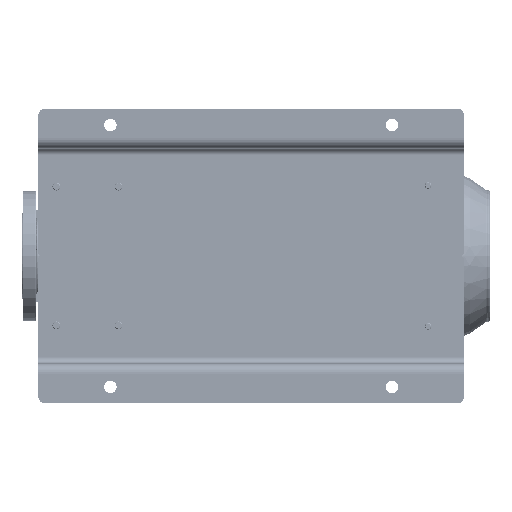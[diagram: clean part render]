
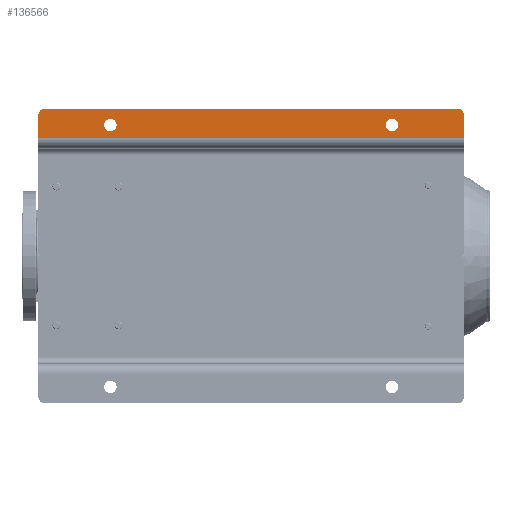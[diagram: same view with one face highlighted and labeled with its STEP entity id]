
A CAD part, front view. The second image highlights one B-rep face of the part: STEP entity #136566.
In plain terms, the highlighted planar face has unit normal (0, -1, 0).
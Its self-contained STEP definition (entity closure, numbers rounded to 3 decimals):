
#491 = AXIS2_PLACEMENT_3D ( 'NONE', #170918, #153267, #101358 ) ;
#7974 = ORIENTED_EDGE ( 'NONE', *, *, #176044, .T. ) ;
#10102 = VERTEX_POINT ( 'NONE', #121909 ) ;
#14840 = DIRECTION ( 'NONE',  ( 0., 0., -1. ) ) ;
#15424 = CARTESIAN_POINT ( 'NONE',  ( 425., 0., -110. ) ) ;
#16075 = CARTESIAN_POINT ( 'NONE',  ( 389., 0., 0. ) ) ;
#17735 = AXIS2_PLACEMENT_3D ( 'NONE', #207880, #122876, #82728 ) ;
#24602 = ORIENTED_EDGE ( 'NONE', *, *, #102186, .T. ) ;
#32465 = CIRCLE ( 'NONE', #220974, 9.5 ) ;
#34374 = ORIENTED_EDGE ( 'NONE', *, *, #54864, .T. ) ;
#36113 = VERTEX_POINT ( 'NONE', #97281 ) ;
#36116 = LINE ( 'NONE', #16075, #84320 ) ;
#48354 = CIRCLE ( 'NONE', #187988, 9.5 ) ;
#48909 = LINE ( 'NONE', #87920, #128263 ) ;
#50344 = PLANE ( 'NONE',  #126813 ) ;
#54864 = EDGE_CURVE ( 'NONE', #65617, #105984, #202630, .T. ) ;
#59059 = CARTESIAN_POINT ( 'NONE',  ( 415.5, 0., -110. ) ) ;
#65503 = DIRECTION ( 'NONE',  ( 0., 1., 0. ) ) ;
#65617 = VERTEX_POINT ( 'NONE', #123612 ) ;
#65779 = FACE_BOUND ( 'NONE', #78198, .T. ) ;
#67366 = LINE ( 'NONE', #126409, #167493 ) ;
#70147 = DIRECTION ( 'NONE',  ( 0., 0., 1. ) ) ;
#71041 = DIRECTION ( 'NONE',  ( 0., 0., -1. ) ) ;
#72207 = EDGE_CURVE ( 'NONE', #119170, #106532, #67366, .T. ) ;
#77016 = CARTESIAN_POINT ( 'NONE',  ( 405., 0., 0. ) ) ;
#78125 = ORIENTED_EDGE ( 'NONE', *, *, #215055, .T. ) ;
#78198 = EDGE_LOOP ( 'NONE', ( #34374, #7974 ) ) ;
#80007 = AXIS2_PLACEMENT_3D ( 'NONE', #110271, #182170, #217600 ) ;
#82728 = DIRECTION ( 'NONE',  ( 0., 0., -1. ) ) ;
#82949 = EDGE_CURVE ( 'NONE', #36113, #98380, #48909, .T. ) ;
#84320 = VECTOR ( 'NONE', #126042, 1000. ) ;
#84690 = FACE_OUTER_BOUND ( 'NONE', #216399, .T. ) ;
#85073 = DIRECTION ( 'NONE',  ( 0., 1., 0. ) ) ;
#86385 = CARTESIAN_POINT ( 'NONE',  ( 389., 0., -650. ) ) ;
#87920 = CARTESIAN_POINT ( 'NONE',  ( 450., 0., -650. ) ) ;
#95805 = DIRECTION ( 'NONE',  ( 0., 1., 0. ) ) ;
#96827 = ORIENTED_EDGE ( 'NONE', *, *, #82949, .T. ) ;
#97281 = CARTESIAN_POINT ( 'NONE',  ( 450., 0., -640. ) ) ;
#98380 = VERTEX_POINT ( 'NONE', #182307 ) ;
#101358 = DIRECTION ( 'NONE',  ( 0., 0., -1. ) ) ;
#102186 = EDGE_CURVE ( 'NONE', #10102, #36113, #173972, .T. ) ;
#105984 = VERTEX_POINT ( 'NONE', #200253 ) ;
#106532 = VERTEX_POINT ( 'NONE', #148860 ) ;
#108130 = CIRCLE ( 'NONE', #111878, 9.5 ) ;
#108317 = VERTEX_POINT ( 'NONE', #184202 ) ;
#110271 = CARTESIAN_POINT ( 'NONE',  ( 440., 0., -10. ) ) ;
#111878 = AXIS2_PLACEMENT_3D ( 'NONE', #15424, #65503, #71041 ) ;
#118863 = EDGE_LOOP ( 'NONE', ( #78125, #175390 ) ) ;
#119170 = VERTEX_POINT ( 'NONE', #77016 ) ;
#119441 = CARTESIAN_POINT ( 'NONE',  ( 425., 0., -540. ) ) ;
#121778 = ORIENTED_EDGE ( 'NONE', *, *, #143729, .T. ) ;
#121909 = CARTESIAN_POINT ( 'NONE',  ( 440., 0., -650. ) ) ;
#122876 = DIRECTION ( 'NONE',  ( 0., 1., 0. ) ) ;
#123612 = CARTESIAN_POINT ( 'NONE',  ( 415.5, 0., -540. ) ) ;
#123839 = ORIENTED_EDGE ( 'NONE', *, *, #209578, .T. ) ;
#126042 = DIRECTION ( 'NONE',  ( 1., 0., 0. ) ) ;
#126409 = CARTESIAN_POINT ( 'NONE',  ( 405., 0., -650. ) ) ;
#126813 = AXIS2_PLACEMENT_3D ( 'NONE', #194474, #176691, #14840 ) ;
#128263 = VECTOR ( 'NONE', #70147, 1000. ) ;
#133487 = CARTESIAN_POINT ( 'NONE',  ( 425., 0., -110. ) ) ;
#136566 = ADVANCED_FACE ( 'NONE', ( #227469, #65779, #84690 ), #50344, .T. ) ;
#136759 = EDGE_CURVE ( 'NONE', #108317, #206500, #108130, .T. ) ;
#138451 = VECTOR ( 'NONE', #157206, 1000. ) ;
#139424 = DIRECTION ( 'NONE',  ( 0., 0., -1. ) ) ;
#143729 = EDGE_CURVE ( 'NONE', #98380, #213798, #230768, .T. ) ;
#146729 = ORIENTED_EDGE ( 'NONE', *, *, #231663, .F. ) ;
#148860 = CARTESIAN_POINT ( 'NONE',  ( 405., 0., -650. ) ) ;
#153267 = DIRECTION ( 'NONE',  ( 0., -1., 0. ) ) ;
#157206 = DIRECTION ( 'NONE',  ( 1., 0., 0. ) ) ;
#160658 = LINE ( 'NONE', #86385, #138451 ) ;
#167493 = VECTOR ( 'NONE', #139424, 1000. ) ;
#170918 = CARTESIAN_POINT ( 'NONE',  ( 440., 0., -640. ) ) ;
#173972 = CIRCLE ( 'NONE', #491, 10. ) ;
#175390 = ORIENTED_EDGE ( 'NONE', *, *, #136759, .T. ) ;
#176044 = EDGE_CURVE ( 'NONE', #105984, #65617, #32465, .T. ) ;
#176691 = DIRECTION ( 'NONE',  ( 0., -1., 0. ) ) ;
#181936 = CARTESIAN_POINT ( 'NONE',  ( 440., 0., 0. ) ) ;
#182170 = DIRECTION ( 'NONE',  ( 0., -1., 0. ) ) ;
#182307 = CARTESIAN_POINT ( 'NONE',  ( 450., 0., -10. ) ) ;
#184202 = CARTESIAN_POINT ( 'NONE',  ( 434.5, 0., -110. ) ) ;
#187988 = AXIS2_PLACEMENT_3D ( 'NONE', #133487, #95805, #188957 ) ;
#188957 = DIRECTION ( 'NONE',  ( 0., 0., -1. ) ) ;
#191365 = DIRECTION ( 'NONE',  ( 0., 0., -1. ) ) ;
#194474 = CARTESIAN_POINT ( 'NONE',  ( 389., 0., -650. ) ) ;
#200253 = CARTESIAN_POINT ( 'NONE',  ( 434.5, 0., -540. ) ) ;
#202630 = CIRCLE ( 'NONE', #17735, 9.5 ) ;
#206500 = VERTEX_POINT ( 'NONE', #59059 ) ;
#207880 = CARTESIAN_POINT ( 'NONE',  ( 425., 0., -540. ) ) ;
#209578 = EDGE_CURVE ( 'NONE', #106532, #10102, #160658, .T. ) ;
#213798 = VERTEX_POINT ( 'NONE', #181936 ) ;
#215055 = EDGE_CURVE ( 'NONE', #206500, #108317, #48354, .T. ) ;
#216399 = EDGE_LOOP ( 'NONE', ( #146729, #221555, #123839, #24602, #96827, #121778 ) ) ;
#217600 = DIRECTION ( 'NONE',  ( 0., 0., -1. ) ) ;
#220974 = AXIS2_PLACEMENT_3D ( 'NONE', #119441, #85073, #191365 ) ;
#221555 = ORIENTED_EDGE ( 'NONE', *, *, #72207, .T. ) ;
#227469 = FACE_BOUND ( 'NONE', #118863, .T. ) ;
#230768 = CIRCLE ( 'NONE', #80007, 10. ) ;
#231663 = EDGE_CURVE ( 'NONE', #119170, #213798, #36116, .T. ) ;
